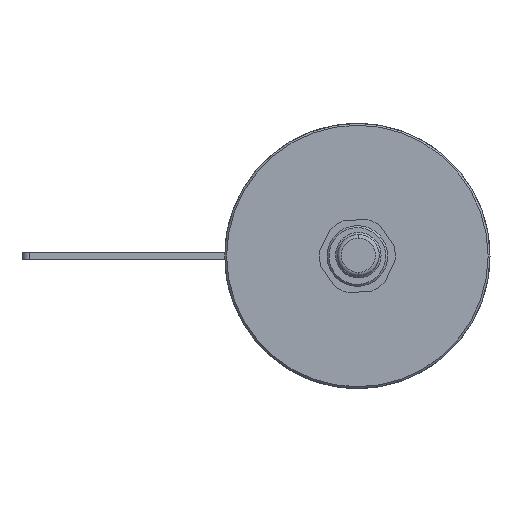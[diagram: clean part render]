
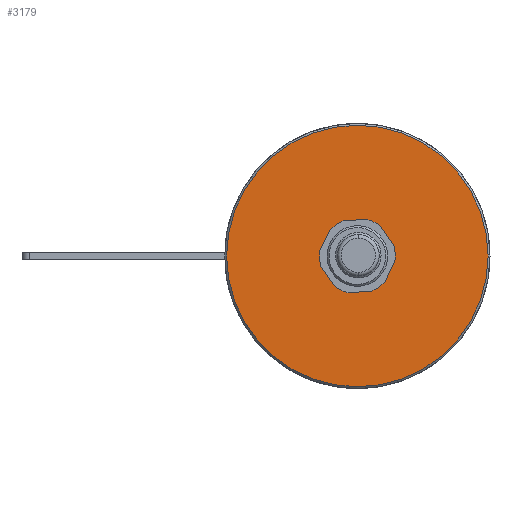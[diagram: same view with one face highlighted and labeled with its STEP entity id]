
A CAD part, left-side view. The second image highlights one B-rep face of the part: STEP entity #3179.
In plain terms, the highlighted planar face has unit normal (-1, 0, 0).
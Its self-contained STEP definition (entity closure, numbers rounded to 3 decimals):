
#749 = CARTESIAN_POINT ( 'NONE',  ( -57., -34.5, 0. ) ) ;
#851 = FACE_BOUND ( 'NONE', #7642, .T. ) ;
#1367 = DIRECTION ( 'NONE',  ( 0., -1., 0. ) ) ;
#1639 = CARTESIAN_POINT ( 'NONE',  ( -57., 0., -6.05 ) ) ;
#2555 = CARTESIAN_POINT ( 'NONE',  ( -57., 0., 0. ) ) ;
#3179 = ADVANCED_FACE ( 'NONE', ( #12893, #851 ), #15447, .T. ) ;
#3428 = ORIENTED_EDGE ( 'NONE', *, *, #10269, .T. ) ;
#3592 = VERTEX_POINT ( 'NONE', #749 ) ;
#3797 = ORIENTED_EDGE ( 'NONE', *, *, #9853, .T. ) ;
#4184 = AXIS2_PLACEMENT_3D ( 'NONE', #6229, #11587, #16931 ) ;
#4218 = VERTEX_POINT ( 'NONE', #11324 ) ;
#4219 = CARTESIAN_POINT ( 'NONE',  ( -57., 34.5, 0. ) ) ;
#4246 = AXIS2_PLACEMENT_3D ( 'NONE', #6564, #11916, #17262 ) ;
#4462 = EDGE_CURVE ( 'NONE', #4218, #17070, #11811, .T. ) ;
#5118 = DIRECTION ( 'NONE',  ( -1., 0., 0. ) ) ;
#5218 = AXIS2_PLACEMENT_3D ( 'NONE', #17144, #5118, #10485 ) ;
#5313 = AXIS2_PLACEMENT_3D ( 'NONE', #8059, #13402, #1367 ) ;
#5770 = EDGE_LOOP ( 'NONE', ( #3797, #3428 ) ) ;
#6229 = CARTESIAN_POINT ( 'NONE',  ( -57., 35., 0. ) ) ;
#6564 = CARTESIAN_POINT ( 'NONE',  ( -57., 0., 0. ) ) ;
#7356 = EDGE_CURVE ( 'NONE', #17070, #4218, #12787, .T. ) ;
#7642 = EDGE_LOOP ( 'NONE', ( #12575, #9249 ) ) ;
#7935 = DIRECTION ( 'NONE',  ( -1., 0., 0. ) ) ;
#8059 = CARTESIAN_POINT ( 'NONE',  ( -57., 0., 0. ) ) ;
#8639 = CIRCLE ( 'NONE', #10903, 34.5 ) ;
#9249 = ORIENTED_EDGE ( 'NONE', *, *, #7356, .F. ) ;
#9853 = EDGE_CURVE ( 'NONE', #16952, #3592, #10652, .T. ) ;
#10269 = EDGE_CURVE ( 'NONE', #3592, #16952, #8639, .T. ) ;
#10485 = DIRECTION ( 'NONE',  ( 0., 0., 1. ) ) ;
#10652 = CIRCLE ( 'NONE', #5313, 34.5 ) ;
#10903 = AXIS2_PLACEMENT_3D ( 'NONE', #2555, #7935, #13280 ) ;
#11324 = CARTESIAN_POINT ( 'NONE',  ( -57., 0., 6.05 ) ) ;
#11587 = DIRECTION ( 'NONE',  ( -1., 0., 0. ) ) ;
#11811 = CIRCLE ( 'NONE', #4246, 6.05 ) ;
#11916 = DIRECTION ( 'NONE',  ( -1., 0., 0. ) ) ;
#12575 = ORIENTED_EDGE ( 'NONE', *, *, #4462, .F. ) ;
#12787 = CIRCLE ( 'NONE', #5218, 6.05 ) ;
#12893 = FACE_OUTER_BOUND ( 'NONE', #5770, .T. ) ;
#13280 = DIRECTION ( 'NONE',  ( 0., -1., 0. ) ) ;
#13402 = DIRECTION ( 'NONE',  ( -1., 0., 0. ) ) ;
#15447 = PLANE ( 'NONE',  #4184 ) ;
#16931 = DIRECTION ( 'NONE',  ( 0., 1., 0. ) ) ;
#16952 = VERTEX_POINT ( 'NONE', #4219 ) ;
#17070 = VERTEX_POINT ( 'NONE', #1639 ) ;
#17144 = CARTESIAN_POINT ( 'NONE',  ( -57., 0., 0. ) ) ;
#17262 = DIRECTION ( 'NONE',  ( 0., 0., 1. ) ) ;
